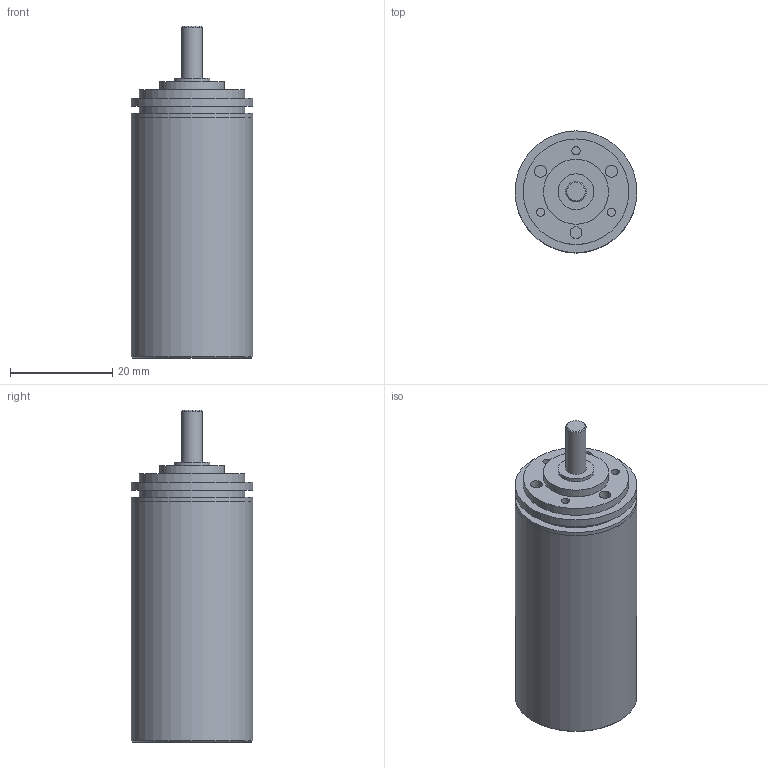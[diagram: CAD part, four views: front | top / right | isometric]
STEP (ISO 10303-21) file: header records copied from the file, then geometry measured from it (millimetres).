
FILE_DESCRIPTION(/* description */ (''),/* implementation_level */ '2;1');
FILE_NAME(/* name */ '22-2_5.stp',/* time_stamp */ '2016-08-26T11:14:44+02:00',/* author */ ('DR. FRITZ FAULHABER GmbH & Co. KG'),/* organization */ ('DR. FRITZ FAULHABER GmbH & Co. KG'),/* preprocessor_version */ 'ST-DEVELOPER v16',/* originating_system */ 'SIEMENS PLM Software NX 10.0',/* authorisation */ '');
FILE_SCHEMA (('AUTOMOTIVE_DESIGN { 1 0 10303 214 3 1 1 1 }'));
Length unit declared in the file: millimetre
Products named in the file (1): H00000855_A
Bounding box: 23.8 x 23.8 x 64.9 mm (x, y, z)
Volume: 15412.4 mm3; surface area: 6879 mm2
Topology: 1 solids, 1 shells, 42 faces, 65 edges, 43 vertices
Faces by surface type: plane 20, cylinder 19, cone 3
Full cylindrical faces by diameter (mm): 1.6 x3, 2.329 x3, 3.5 x1, 4 x1, 4.5 x1, 7 x2, 12.7 x1, 20.63 x2, 22 x1, 23.79 x1, 23.8 x3
Entity records: 858 total; most frequent: DIRECTION 168, CARTESIAN_POINT 125, AXIS2_PLACEMENT_3D 84, EDGE_LOOP 82, ORIENTED_EDGE 82, FACE_BOUND 74, ADVANCED_FACE 42, VERTEX_POINT 41
